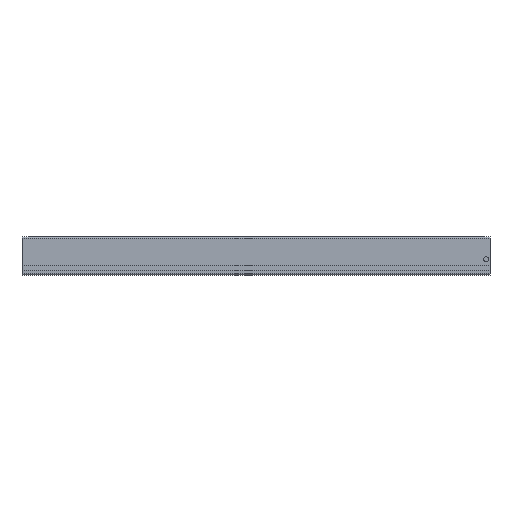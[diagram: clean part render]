
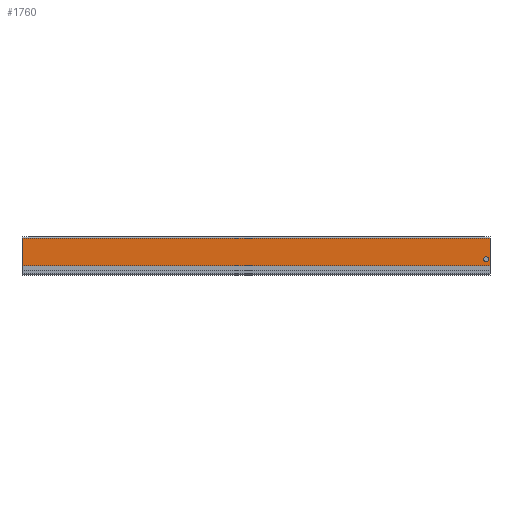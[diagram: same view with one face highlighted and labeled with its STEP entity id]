
A CAD part, top view. The second image highlights one B-rep face of the part: STEP entity #1760.
In plain terms, the highlighted planar face has unit normal (0, 0, 1).
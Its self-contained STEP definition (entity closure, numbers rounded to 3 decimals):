
#102 = VERTEX_POINT ( 'NONE', #1153 ) ;
#147 = EDGE_CURVE ( 'NONE', #1621, #852, #971, .T. ) ;
#179 = VECTOR ( 'NONE', #685, 1000. ) ;
#186 = AXIS2_PLACEMENT_3D ( 'NONE', #1889, #2057, #1258 ) ;
#249 = FACE_OUTER_BOUND ( 'NONE', #1703, .T. ) ;
#288 = DIRECTION ( 'NONE',  ( 0., 0., -1. ) ) ;
#336 = ORIENTED_EDGE ( 'NONE', *, *, #556, .T. ) ;
#337 = EDGE_LOOP ( 'NONE', ( #1032, #1058 ) ) ;
#501 = EDGE_CURVE ( 'NONE', #890, #1567, #718, .T. ) ;
#556 = EDGE_CURVE ( 'NONE', #1213, #1621, #1219, .T. ) ;
#666 = VECTOR ( 'NONE', #942, 1000. ) ;
#685 = DIRECTION ( 'NONE',  ( 0., -1., 0. ) ) ;
#718 = CIRCLE ( 'NONE', #1710, 1.85 ) ;
#745 = FACE_BOUND ( 'NONE', #337, .T. ) ;
#765 = CIRCLE ( 'NONE', #186, 1.85 ) ;
#819 = LINE ( 'NONE', #1431, #666 ) ;
#852 = VERTEX_POINT ( 'NONE', #1399 ) ;
#865 = DIRECTION ( 'NONE',  ( -1., 0., 0. ) ) ;
#867 = CARTESIAN_POINT ( 'NONE',  ( 0., 26.7, 0. ) ) ;
#890 = VERTEX_POINT ( 'NONE', #2016 ) ;
#942 = DIRECTION ( 'NONE',  ( -1., 0., 0. ) ) ;
#971 = LINE ( 'NONE', #1794, #1819 ) ;
#1005 = EDGE_CURVE ( 'NONE', #102, #1213, #819, .T. ) ;
#1032 = ORIENTED_EDGE ( 'NONE', *, *, #501, .F. ) ;
#1058 = ORIENTED_EDGE ( 'NONE', *, *, #1997, .F. ) ;
#1080 = PLANE ( 'NONE',  #1188 ) ;
#1138 = ORIENTED_EDGE ( 'NONE', *, *, #147, .T. ) ;
#1152 = ORIENTED_EDGE ( 'NONE', *, *, #1496, .F. ) ;
#1153 = CARTESIAN_POINT ( 'NONE',  ( 340., 26.7, 0. ) ) ;
#1156 = CARTESIAN_POINT ( 'NONE',  ( 340., 0., 0. ) ) ;
#1188 = AXIS2_PLACEMENT_3D ( 'NONE', #1721, #288, #1848 ) ;
#1213 = VERTEX_POINT ( 'NONE', #867 ) ;
#1219 = LINE ( 'NONE', #1302, #179 ) ;
#1246 = VECTOR ( 'NONE', #1936, 1000. ) ;
#1258 = DIRECTION ( 'NONE',  ( -1., 0., 0. ) ) ;
#1294 = LINE ( 'NONE', #1156, #1246 ) ;
#1302 = CARTESIAN_POINT ( 'NONE',  ( 0., 0., 0. ) ) ;
#1351 = CARTESIAN_POINT ( 'NONE',  ( 0., 6.6, 0. ) ) ;
#1399 = CARTESIAN_POINT ( 'NONE',  ( 340., 6.6, 0. ) ) ;
#1431 = CARTESIAN_POINT ( 'NONE',  ( 340., 26.7, 0. ) ) ;
#1456 = ORIENTED_EDGE ( 'NONE', *, *, #1005, .T. ) ;
#1491 = CARTESIAN_POINT ( 'NONE',  ( 339., 11.392, 0. ) ) ;
#1496 = EDGE_CURVE ( 'NONE', #102, #852, #1294, .T. ) ;
#1567 = VERTEX_POINT ( 'NONE', #1491 ) ;
#1621 = VERTEX_POINT ( 'NONE', #1351 ) ;
#1678 = CARTESIAN_POINT ( 'NONE',  ( 337.15, 11.392, 0. ) ) ;
#1703 = EDGE_LOOP ( 'NONE', ( #1152, #1456, #336, #1138 ) ) ;
#1710 = AXIS2_PLACEMENT_3D ( 'NONE', #1678, #1817, #865 ) ;
#1721 = CARTESIAN_POINT ( 'NONE',  ( 340., 0., 0. ) ) ;
#1760 = ADVANCED_FACE ( 'NONE', ( #745, #249 ), #1080, .F. ) ;
#1794 = CARTESIAN_POINT ( 'NONE',  ( 0., 6.6, 0. ) ) ;
#1817 = DIRECTION ( 'NONE',  ( 0., 0., 1. ) ) ;
#1819 = VECTOR ( 'NONE', #1952, 1000. ) ;
#1848 = DIRECTION ( 'NONE',  ( -1., 0., 0. ) ) ;
#1889 = CARTESIAN_POINT ( 'NONE',  ( 337.15, 11.392, 0. ) ) ;
#1936 = DIRECTION ( 'NONE',  ( 0., -1., 0. ) ) ;
#1952 = DIRECTION ( 'NONE',  ( 1., 0., 0. ) ) ;
#1997 = EDGE_CURVE ( 'NONE', #1567, #890, #765, .T. ) ;
#2016 = CARTESIAN_POINT ( 'NONE',  ( 335.3, 11.392, 0. ) ) ;
#2057 = DIRECTION ( 'NONE',  ( 0., 0., 1. ) ) ;
